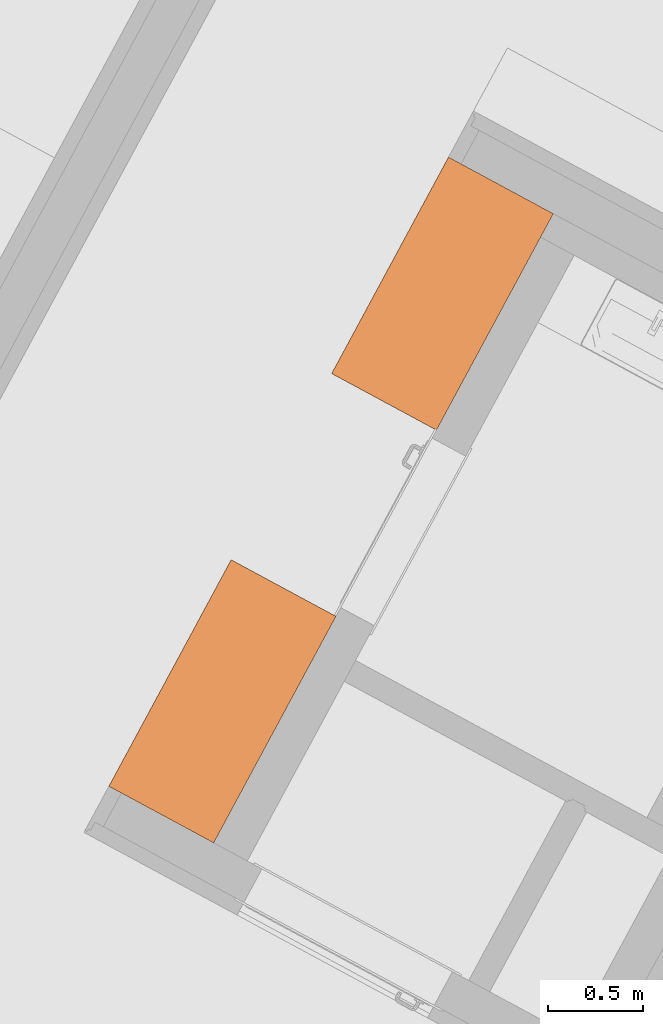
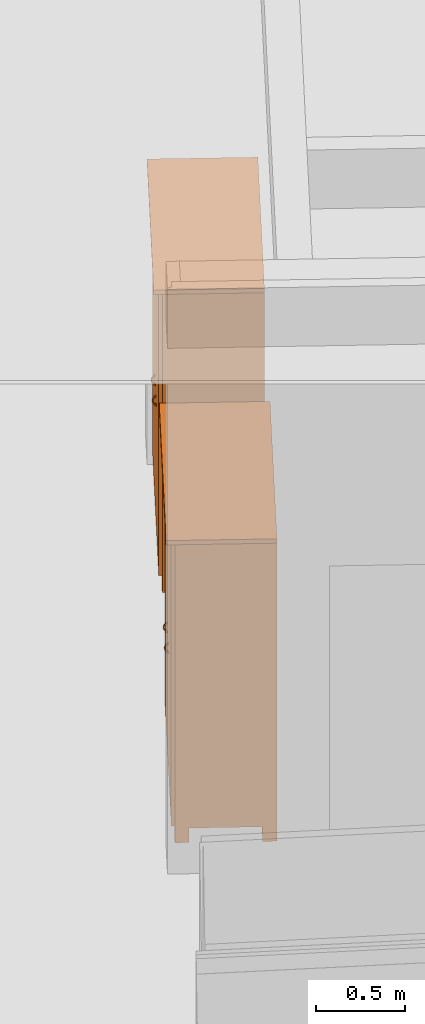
# One storey, part 45 of 52: 2 proxies.
"""IFC2X3 building model written with IfcOpenShell, lengths in metres."""

from ifc_helpers import new_model, entity, si_unit, converted_unit, derived_unit, money_unit, direction, frame, origin_with_axes, place, context, subcontext, project, spatial, faceted_brep, type_object, element, save


model = new_model("IFC2X3")

# Units and contexts
model_context = context("Model", 3, precision=1e-05, world=origin_with_axes(), true_north=direction((0.0, 1.0)))
body_context = subcontext(model_context, "Body", "Model", "MODEL_VIEW")
ifc_project = project(units=[si_unit("LENGTHUNIT", "METRE"), si_unit("AREAUNIT", "SQUARE_METRE"), si_unit("VOLUMEUNIT", "CUBIC_METRE"), converted_unit("PLANEANGLEUNIT", "DEGREE", entity("IfcPlaneAngleMeasure", 0.0174532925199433), si_unit("PLANEANGLEUNIT", "RADIAN"), dimensions=[0, 0, 0, 0, 0, 0, 0]), money_unit("EUR"), converted_unit("TIMEUNIT", "Year", entity("IfcTimeMeasure", 31556926.0), si_unit("TIMEUNIT", "SECOND"), dimensions=[0, 0, 1, 0, 0, 0, 0]), si_unit("MASSUNIT", "GRAM", prefix="KILO"), si_unit("THERMODYNAMICTEMPERATUREUNIT", "DEGREE_CELSIUS"), si_unit("LUMINOUSINTENSITYUNIT", "LUMEN"), si_unit("ENERGYUNIT", "JOULE", prefix="MEGA"), derived_unit("THERMALCONDUCTANCEUNIT", [(si_unit("POWERUNIT", "WATT"), 1), (si_unit("LENGTHUNIT", "METRE"), -1), (si_unit("THERMODYNAMICTEMPERATUREUNIT", "KELVIN"), -1)]), derived_unit("SPECIFICHEATCAPACITYUNIT", [(si_unit("ENERGYUNIT", "JOULE"), 1), (si_unit("MASSUNIT", "GRAM", prefix="KILO"), -1), (si_unit("THERMODYNAMICTEMPERATUREUNIT", "KELVIN"), -1)]), derived_unit("MASSDENSITYUNIT", [(si_unit("MASSUNIT", "GRAM", prefix="KILO"), 1), (si_unit("VOLUMEUNIT", "CUBIC_METRE"), -1)])], contexts=[model_context])

# Site, building, storey
site_placement = place(None, frame((-3.949935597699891, 1.740105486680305, 0.0), z_axis=(0.0, 0.0, 1.0), x_axis=(0.8799804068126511, -0.475009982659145, 0.0)))
site = spatial("IfcSite", under=ifc_project, at=site_placement, Name="Gelände", CompositionType="ELEMENT")
building_placement = place(site_placement, origin_with_axes())
building = spatial("IfcBuilding", under=site, at=building_placement, Name="Gebäude", CompositionType="ELEMENT")
storey_placement = place(building_placement, origin_with_axes())
storey = spatial("IfcBuildingStorey", under=building, at=storey_placement, Name="Erdgeschoss", CompositionType="ELEMENT", Elevation=0.0)

# Proxies
building_element_proxy_type = type_object("IfcBuildingElementProxyType", Name="Kleiderschrank 22", PredefinedType="NOTDEFINED")
proxy_1_placement = place(storey_placement, frame((15.16082818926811, 6.72805330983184, 0.0), z_axis=(0.0, 0.0, 1.0), x_axis=(0.0, -1.0, 0.0)))
element("IfcBuildingElementProxy", 1, at=proxy_1_placement, inside=storey, type_object=building_element_proxy_type, Name="Objekt-0067", context=body_context, shape_type="Brep", body=[
    faceted_brep([(0.05000000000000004, 0.6246501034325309, 0.12), (0.05000000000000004, 0.6046501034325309, 0.12), (0.05000000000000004, 0.6046501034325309, 2.05), (0.05000000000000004, 0.6246501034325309, 2.05), (1.24, 0.6246501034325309, 0.12), (1.24, 0.6046501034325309, 0.12), (1.24, 0.6046501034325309, 2.05), (1.24, 0.6246501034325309, 2.05)], [[[0, 1, 2, 3]], [[0, 4, 5, 1]], [[1, 5, 6, 2]], [[3, 2, 6, 7]], [[4, 0, 3, 7]], [[5, 4, 7, 6]]]),
    faceted_brep([(1.26, 0.05000000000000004, 0.1), (1.24, 0.05000000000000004, 0.1), (1.24, 0.6246501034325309, 0.1), (1.26, 0.6246501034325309, 0.1), (1.26, 0.05000000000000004, 2.07), (1.24, 0.05000000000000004, 2.07), (1.24, 0.6246501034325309, 2.07), (1.26, 0.6246501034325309, 2.07)], [[[0, 1, 2, 3]], [[1, 0, 4, 5]], [[2, 1, 5, 6]], [[3, 2, 6, 7]], [[0, 3, 7, 4]], [[5, 4, 7, 6]]]),
    faceted_brep([(0.05000000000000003, 0.05000000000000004, 0.1), (0.03000000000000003, 0.05000000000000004, 0.1), (0.03000000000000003, 0.6246501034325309, 0.1), (0.05000000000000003, 0.6246501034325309, 0.1), (0.05000000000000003, 0.05000000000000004, 2.07), (0.03000000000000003, 0.05000000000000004, 2.07), (0.03000000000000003, 0.6246501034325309, 2.07), (0.05000000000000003, 0.6246501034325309, 2.07)], [[[0, 1, 2, 3]], [[1, 0, 4, 5]], [[2, 1, 5, 6]], [[3, 2, 6, 7]], [[0, 3, 7, 4]], [[5, 4, 7, 6]]]),
    faceted_brep([(1.24, 0.05000000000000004, 0.1), (0.05000000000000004, 0.05000000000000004, 0.1), (0.05000000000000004, 0.6246501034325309, 0.1), (1.24, 0.6246501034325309, 0.1), (1.24, 0.05000000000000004, 0.12), (0.05000000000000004, 0.05000000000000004, 0.12), (0.05000000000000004, 0.6246501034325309, 0.12), (1.24, 0.6246501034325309, 0.12)], [[[0, 1, 2, 3]], [[1, 0, 4, 5]], [[2, 1, 5, 6]], [[3, 2, 6, 7]], [[0, 3, 7, 4]], [[5, 4, 7, 6]]]),
    faceted_brep([(1.24, 0.05000000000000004, 2.05), (0.05000000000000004, 0.05000000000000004, 2.05), (0.05000000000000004, 0.6246501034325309, 2.05), (1.24, 0.6246501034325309, 2.05), (1.24, 0.05000000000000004, 2.07), (0.05000000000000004, 0.05000000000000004, 2.07), (0.05000000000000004, 0.6246501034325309, 2.07), (1.24, 0.6246501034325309, 2.07)], [[[0, 1, 2, 3]], [[1, 0, 4, 5]], [[2, 1, 5, 6]], [[3, 2, 6, 7]], [[0, 3, 7, 4]], [[5, 4, 7, 6]]]),
    faceted_brep([(1.29, 0.6246501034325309, 2.07), (1.29, 0.6246501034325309, 2.1), (1.29, 0.0, 2.1), (1.29, 0.0, 2.07), (0.0, 0.6246501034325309, 2.07), (0.0, 0.6246501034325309, 2.1), (0.0, 0.0, 2.1), (0.0, 0.0, 2.07)], [[[0, 1, 2, 3]], [[4, 5, 1, 0]], [[1, 5, 6, 2]], [[3, 2, 6, 7]], [[0, 3, 7, 4]], [[7, 6, 5, 4]]]),
    faceted_brep([(0.1100000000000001, 0.5446501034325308, 0.0), (0.1100000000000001, 0.6246501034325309, 0.0), (0.1100000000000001, 0.6246501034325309, 0.1), (0.1100000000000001, 0.5446501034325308, 0.1), (0.03000000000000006, 0.5446501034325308, 0.0), (0.03000000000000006, 0.6246501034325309, 0.0), (0.03000000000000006, 0.6246501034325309, 0.1), (0.03000000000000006, 0.5446501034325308, 0.1)], [[[0, 1, 2, 3]], [[0, 4, 5, 1]], [[1, 5, 6, 2]], [[3, 2, 6, 7]], [[4, 0, 3, 7]], [[5, 4, 7, 6]]]),
    faceted_brep([(1.26, 0.5446501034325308, 0.0), (1.26, 0.6246501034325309, 0.0), (1.26, 0.6246501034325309, 0.1), (1.26, 0.5446501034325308, 0.1), (1.18, 0.5446501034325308, 0.0), (1.18, 0.6246501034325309, 0.0), (1.18, 0.6246501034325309, 0.1), (1.18, 0.5446501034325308, 0.1)], [[[0, 1, 2, 3]], [[0, 4, 5, 1]], [[1, 5, 6, 2]], [[3, 2, 6, 7]], [[4, 0, 3, 7]], [[5, 4, 7, 6]]]),
    faceted_brep([(0.1100000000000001, 0.05000000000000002, 0.0), (0.1100000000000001, 0.13, 0.0), (0.1100000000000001, 0.13, 0.1), (0.1100000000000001, 0.05000000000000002, 0.1), (0.03000000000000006, 0.05000000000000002, 0.0), (0.03000000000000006, 0.13, 0.0), (0.03000000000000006, 0.13, 0.1), (0.03000000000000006, 0.05000000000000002, 0.1)], [[[0, 1, 2, 3]], [[0, 4, 5, 1]], [[1, 5, 6, 2]], [[3, 2, 6, 7]], [[4, 0, 3, 7]], [[5, 4, 7, 6]]]),
    faceted_brep([(1.26, 0.05000000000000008, 0.0), (1.26, 0.1300000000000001, 0.0), (1.26, 0.1300000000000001, 0.1), (1.26, 0.05000000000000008, 0.1), (1.18, 0.05000000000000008, 0.0), (1.18, 0.1300000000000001, 0.0), (1.18, 0.1300000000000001, 0.1), (1.18, 0.05000000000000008, 0.1)], [[[0, 1, 2, 3]], [[0, 4, 5, 1]], [[1, 5, 6, 2]], [[3, 2, 6, 7]], [[4, 0, 3, 7]], [[5, 4, 7, 6]]]),
    faceted_brep([(0.04049999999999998, 0.05, 0.1104999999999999), (0.6445, 0.05, 0.1104999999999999), (0.6445, 0.03, 0.1104999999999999), (0.04049999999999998, 0.03, 0.1104999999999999), (0.04049999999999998, 0.05000000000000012, 2.0595), (0.6445, 0.05000000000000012, 2.0595), (0.6445, 0.03000000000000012, 2.0595), (0.04049999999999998, 0.03000000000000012, 2.0595)], [[[0, 1, 2, 3]], [[0, 4, 5, 1]], [[1, 5, 6, 2]], [[3, 2, 6, 7]], [[4, 0, 3, 7]], [[5, 4, 7, 6]]]),
    faceted_brep([(0.5819262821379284, 0.03, 0.955), (0.5819262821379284, 0.03, 0.965), (0.5939984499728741, 0.03, 0.965), (0.5939984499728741, 0.03, 0.955), (0.5708251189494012, 0.01914952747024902, 0.965), (0.5708251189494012, 0.01914952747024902, 0.955), (0.5171748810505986, 0.01914952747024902, 0.965), (0.5060737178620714, 0.03, 0.965), (0.4940015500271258, 0.03, 0.965), (0.5089716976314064, 0.01692943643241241, 0.965), (0.5259650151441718, 0.008772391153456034, 0.965), (0.5439999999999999, 0.006000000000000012, 0.965), (0.562034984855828, 0.008772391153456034, 0.965), (0.5790283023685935, 0.01692943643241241, 0.965), (0.5578878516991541, 0.01232720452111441, 0.965), (0.5439999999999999, 0.009999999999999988, 0.965), (0.5301121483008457, 0.01232720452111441, 0.965), (0.5790283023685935, 0.01692943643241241, 0.955), (0.562034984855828, 0.008772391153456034, 0.955), (0.5439999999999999, 0.006000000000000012, 0.955), (0.5259650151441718, 0.008772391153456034, 0.955), (0.5089716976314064, 0.01692943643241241, 0.955), (0.4940015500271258, 0.03, 0.955), (0.5060737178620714, 0.03, 0.955), (0.5171748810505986, 0.01914952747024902, 0.955), (0.5301121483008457, 0.01232720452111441, 0.955), (0.5439999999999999, 0.009999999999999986, 0.955), (0.5578878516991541, 0.01232720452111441, 0.955)], [[[0, 1, 2, 3]], [[4, 1, 0, 5]], [[6, 7, 8, 9, 10, 11, 12, 13, 2, 1, 4, 14, 15, 16]], [[13, 17, 3, 2]], [[5, 0, 3, 17, 18, 19, 20, 21, 22, 23, 24, 25, 26, 27]], [[14, 4, 5, 27]], [[7, 6, 24, 23]], [[7, 23, 22, 8]], [[8, 22, 21, 9]], [[9, 21, 20, 10]], [[10, 20, 19, 11]], [[11, 19, 18, 12]], [[12, 18, 17, 13]], [[15, 14, 27, 26]], [[16, 15, 26, 25]], [[6, 16, 25, 24]]]),
    faceted_brep([(0.6465000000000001, 0.05, 0.1104999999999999), (1.2505, 0.05, 0.1104999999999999), (1.2505, 0.03, 0.1104999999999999), (0.6465000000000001, 0.03, 0.1104999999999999), (0.6465000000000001, 0.05000000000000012, 2.0595), (1.2505, 0.05000000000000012, 2.0595), (1.2505, 0.03000000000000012, 2.0595), (0.6465000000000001, 0.03000000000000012, 2.0595)], [[[0, 1, 2, 3]], [[0, 4, 5, 1]], [[1, 5, 6, 2]], [[3, 2, 6, 7]], [[4, 0, 3, 7]], [[5, 4, 7, 6]]]),
    faceted_brep([(0.7839262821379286, 0.03, 0.955), (0.7839262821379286, 0.03, 0.965), (0.7959984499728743, 0.03, 0.965), (0.7959984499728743, 0.03, 0.955), (0.7728251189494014, 0.01914952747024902, 0.965), (0.7728251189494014, 0.01914952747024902, 0.955), (0.7191748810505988, 0.01914952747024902, 0.965), (0.7080737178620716, 0.03, 0.965), (0.6960015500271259, 0.03, 0.965), (0.7109716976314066, 0.01692943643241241, 0.965), (0.727965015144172, 0.008772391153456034, 0.965), (0.7460000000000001, 0.006000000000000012, 0.965), (0.7640349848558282, 0.008772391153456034, 0.965), (0.7810283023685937, 0.01692943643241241, 0.965), (0.7598878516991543, 0.01232720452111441, 0.965), (0.7460000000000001, 0.009999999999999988, 0.965), (0.7321121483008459, 0.01232720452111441, 0.965), (0.7810283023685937, 0.01692943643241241, 0.955), (0.7640349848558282, 0.008772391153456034, 0.955), (0.7460000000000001, 0.006000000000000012, 0.955), (0.727965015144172, 0.008772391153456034, 0.955), (0.7109716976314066, 0.01692943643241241, 0.955), (0.6960015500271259, 0.03, 0.955), (0.7080737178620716, 0.03, 0.955), (0.7191748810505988, 0.01914952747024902, 0.955), (0.7321121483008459, 0.01232720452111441, 0.955), (0.7460000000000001, 0.009999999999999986, 0.955), (0.7598878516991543, 0.01232720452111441, 0.955)], [[[0, 1, 2, 3]], [[4, 1, 0, 5]], [[6, 7, 8, 9, 10, 11, 12, 13, 2, 1, 4, 14, 15, 16]], [[17, 3, 2, 13]], [[5, 0, 3, 17, 18, 19, 20, 21, 22, 23, 24, 25, 26, 27]], [[14, 4, 5, 27]], [[7, 6, 24, 23]], [[7, 23, 22, 8]], [[22, 21, 9, 8]], [[21, 20, 10, 9]], [[20, 19, 11, 10]], [[19, 18, 12, 11]], [[18, 17, 13, 12]], [[15, 14, 27, 26]], [[16, 15, 26, 25]], [[6, 16, 25, 24]]]),
])
proxy_2_placement = place(storey_placement, frame((15.16082818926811, 4.328482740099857, 0.0), z_axis=(0.0, 0.0, 1.0), x_axis=(0.0, -1.0, 0.0)))
element("IfcBuildingElementProxy", 2, at=proxy_2_placement, inside=storey, type_object=building_element_proxy_type, Name="Objekt-0067", context=body_context, shape_type="Brep", body=[
    faceted_brep([(0.05000000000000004, 0.6246501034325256, 0.12), (0.05000000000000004, 0.6046501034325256, 0.12), (0.05000000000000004, 0.6046501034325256, 2.05), (0.05000000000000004, 0.6246501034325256, 2.05), (1.3, 0.6246501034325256, 0.12), (1.3, 0.6046501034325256, 0.12), (1.3, 0.6046501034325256, 2.05), (1.3, 0.6246501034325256, 2.05)], [[[0, 1, 2, 3]], [[0, 4, 5, 1]], [[1, 5, 6, 2]], [[3, 2, 6, 7]], [[4, 0, 3, 7]], [[5, 4, 7, 6]]]),
    faceted_brep([(1.32, 0.05000000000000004, 0.1), (1.3, 0.05000000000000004, 0.1), (1.3, 0.6246501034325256, 0.1), (1.32, 0.6246501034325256, 0.1), (1.32, 0.05000000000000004, 2.07), (1.3, 0.05000000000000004, 2.07), (1.3, 0.6246501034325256, 2.07), (1.32, 0.6246501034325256, 2.07)], [[[0, 1, 2, 3]], [[1, 0, 4, 5]], [[2, 1, 5, 6]], [[3, 2, 6, 7]], [[0, 3, 7, 4]], [[5, 4, 7, 6]]]),
    faceted_brep([(0.05000000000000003, 0.05000000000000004, 0.1), (0.03000000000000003, 0.05000000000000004, 0.1), (0.03000000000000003, 0.6246501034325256, 0.1), (0.05000000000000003, 0.6246501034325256, 0.1), (0.05000000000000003, 0.05000000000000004, 2.07), (0.03000000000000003, 0.05000000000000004, 2.07), (0.03000000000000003, 0.6246501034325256, 2.07), (0.05000000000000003, 0.6246501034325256, 2.07)], [[[0, 1, 2, 3]], [[1, 0, 4, 5]], [[2, 1, 5, 6]], [[3, 2, 6, 7]], [[0, 3, 7, 4]], [[5, 4, 7, 6]]]),
    faceted_brep([(1.3, 0.05000000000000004, 0.1), (0.05000000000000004, 0.05000000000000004, 0.1), (0.05000000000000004, 0.6246501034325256, 0.1), (1.3, 0.6246501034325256, 0.1), (1.3, 0.05000000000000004, 0.12), (0.05000000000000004, 0.05000000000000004, 0.12), (0.05000000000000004, 0.6246501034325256, 0.12), (1.3, 0.6246501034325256, 0.12)], [[[0, 1, 2, 3]], [[1, 0, 4, 5]], [[2, 1, 5, 6]], [[3, 2, 6, 7]], [[0, 3, 7, 4]], [[5, 4, 7, 6]]]),
    faceted_brep([(1.3, 0.05000000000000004, 2.05), (0.05000000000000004, 0.05000000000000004, 2.05), (0.05000000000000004, 0.6246501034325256, 2.05), (1.3, 0.6246501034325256, 2.05), (1.3, 0.05000000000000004, 2.07), (0.05000000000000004, 0.05000000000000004, 2.07), (0.05000000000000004, 0.6246501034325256, 2.07), (1.3, 0.6246501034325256, 2.07)], [[[0, 1, 2, 3]], [[1, 0, 4, 5]], [[2, 1, 5, 6]], [[3, 2, 6, 7]], [[0, 3, 7, 4]], [[5, 4, 7, 6]]]),
    faceted_brep([(1.35, 0.6246501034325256, 2.07), (1.35, 0.6246501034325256, 2.1), (1.35, 0.0, 2.1), (1.35, 0.0, 2.07), (0.0, 0.6246501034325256, 2.07), (0.0, 0.6246501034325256, 2.1), (0.0, 0.0, 2.1), (0.0, 0.0, 2.07)], [[[0, 1, 2, 3]], [[4, 5, 1, 0]], [[1, 5, 6, 2]], [[3, 2, 6, 7]], [[0, 3, 7, 4]], [[7, 6, 5, 4]]]),
    faceted_brep([(0.1100000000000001, 0.5446501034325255, 0.0), (0.1100000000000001, 0.6246501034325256, 0.0), (0.1100000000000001, 0.6246501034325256, 0.1), (0.1100000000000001, 0.5446501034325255, 0.1), (0.03000000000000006, 0.5446501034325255, 0.0), (0.03000000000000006, 0.6246501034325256, 0.0), (0.03000000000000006, 0.6246501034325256, 0.1), (0.03000000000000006, 0.5446501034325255, 0.1)], [[[0, 1, 2, 3]], [[0, 4, 5, 1]], [[1, 5, 6, 2]], [[3, 2, 6, 7]], [[4, 0, 3, 7]], [[5, 4, 7, 6]]]),
    faceted_brep([(1.32, 0.5446501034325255, 0.0), (1.32, 0.6246501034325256, 0.0), (1.32, 0.6246501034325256, 0.1), (1.32, 0.5446501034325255, 0.1), (1.24, 0.5446501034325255, 0.0), (1.24, 0.6246501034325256, 0.0), (1.24, 0.6246501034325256, 0.1), (1.24, 0.5446501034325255, 0.1)], [[[0, 1, 2, 3]], [[0, 4, 5, 1]], [[1, 5, 6, 2]], [[3, 2, 6, 7]], [[4, 0, 3, 7]], [[5, 4, 7, 6]]]),
    faceted_brep([(0.1100000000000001, 0.05000000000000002, 0.0), (0.1100000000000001, 0.13, 0.0), (0.1100000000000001, 0.13, 0.1), (0.1100000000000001, 0.05000000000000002, 0.1), (0.03000000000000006, 0.05000000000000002, 0.0), (0.03000000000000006, 0.13, 0.0), (0.03000000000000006, 0.13, 0.1), (0.03000000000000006, 0.05000000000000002, 0.1)], [[[0, 1, 2, 3]], [[0, 4, 5, 1]], [[1, 5, 6, 2]], [[3, 2, 6, 7]], [[4, 0, 3, 7]], [[5, 4, 7, 6]]]),
    faceted_brep([(1.32, 0.05000000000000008, 0.0), (1.32, 0.1300000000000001, 0.0), (1.32, 0.1300000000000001, 0.1), (1.32, 0.05000000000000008, 0.1), (1.24, 0.05000000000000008, 0.0), (1.24, 0.1300000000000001, 0.0), (1.24, 0.1300000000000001, 0.1), (1.24, 0.05000000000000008, 0.1)], [[[0, 1, 2, 3]], [[0, 4, 5, 1]], [[1, 5, 6, 2]], [[3, 2, 6, 7]], [[4, 0, 3, 7]], [[5, 4, 7, 6]]]),
    faceted_brep([(0.04049999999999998, 0.05, 0.1104999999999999), (0.6744999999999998, 0.05, 0.1104999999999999), (0.6744999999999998, 0.03, 0.1104999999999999), (0.04049999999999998, 0.03, 0.1104999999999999), (0.04049999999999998, 0.05000000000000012, 2.0595), (0.6744999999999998, 0.05000000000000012, 2.0595), (0.6744999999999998, 0.03000000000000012, 2.0595), (0.04049999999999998, 0.03000000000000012, 2.0595)], [[[0, 1, 2, 3]], [[0, 4, 5, 1]], [[1, 5, 6, 2]], [[3, 2, 6, 7]], [[4, 0, 3, 7]], [[5, 4, 7, 6]]]),
    faceted_brep([(0.6119262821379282, 0.03, 0.955), (0.6119262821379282, 0.03, 0.965), (0.6239984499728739, 0.03, 0.965), (0.6239984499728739, 0.03, 0.955), (0.600825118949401, 0.01914952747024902, 0.965), (0.600825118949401, 0.01914952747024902, 0.955), (0.5471748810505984, 0.01914952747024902, 0.965), (0.5360737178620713, 0.03, 0.965), (0.5240015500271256, 0.03, 0.965), (0.5389716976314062, 0.01692943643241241, 0.965), (0.5559650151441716, 0.008772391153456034, 0.965), (0.5739999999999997, 0.006000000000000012, 0.965), (0.5920349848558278, 0.008772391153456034, 0.965), (0.6090283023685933, 0.01692943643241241, 0.965), (0.5878878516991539, 0.01232720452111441, 0.965), (0.5739999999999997, 0.009999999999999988, 0.965), (0.5601121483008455, 0.01232720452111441, 0.965), (0.6090283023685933, 0.01692943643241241, 0.955), (0.5920349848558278, 0.008772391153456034, 0.955), (0.5739999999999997, 0.006000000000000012, 0.955), (0.5559650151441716, 0.008772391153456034, 0.955), (0.5389716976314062, 0.01692943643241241, 0.955), (0.5240015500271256, 0.03, 0.955), (0.5360737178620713, 0.03, 0.955), (0.5471748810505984, 0.01914952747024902, 0.955), (0.5601121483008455, 0.01232720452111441, 0.955), (0.5739999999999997, 0.009999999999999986, 0.955), (0.5878878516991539, 0.01232720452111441, 0.955)], [[[0, 1, 2, 3]], [[4, 1, 0, 5]], [[6, 7, 8, 9, 10, 11, 12, 13, 2, 1, 4, 14, 15, 16]], [[13, 17, 3, 2]], [[5, 0, 3, 17, 18, 19, 20, 21, 22, 23, 24, 25, 26, 27]], [[14, 4, 5, 27]], [[7, 6, 24, 23]], [[7, 23, 22, 8]], [[8, 22, 21, 9]], [[9, 21, 20, 10]], [[10, 20, 19, 11]], [[11, 19, 18, 12]], [[12, 18, 17, 13]], [[15, 14, 27, 26]], [[16, 15, 26, 25]], [[6, 16, 25, 24]]]),
    faceted_brep([(0.6764999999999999, 0.05, 0.1104999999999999), (1.3105, 0.05, 0.1104999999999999), (1.3105, 0.03, 0.1104999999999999), (0.6764999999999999, 0.03, 0.1104999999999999), (0.6764999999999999, 0.05000000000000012, 2.0595), (1.3105, 0.05000000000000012, 2.0595), (1.3105, 0.03000000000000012, 2.0595), (0.6764999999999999, 0.03000000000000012, 2.0595)], [[[0, 1, 2, 3]], [[0, 4, 5, 1]], [[1, 5, 6, 2]], [[3, 2, 6, 7]], [[4, 0, 3, 7]], [[5, 4, 7, 6]]]),
    faceted_brep([(0.8139262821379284, 0.03, 0.955), (0.8139262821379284, 0.03, 0.965), (0.8259984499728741, 0.03, 0.965), (0.8259984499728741, 0.03, 0.955), (0.8028251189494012, 0.01914952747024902, 0.965), (0.8028251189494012, 0.01914952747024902, 0.955), (0.7491748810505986, 0.01914952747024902, 0.965), (0.7380737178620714, 0.03, 0.965), (0.7260015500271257, 0.03, 0.965), (0.7409716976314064, 0.01692943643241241, 0.965), (0.7579650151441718, 0.008772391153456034, 0.965), (0.7759999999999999, 0.006000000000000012, 0.965), (0.794034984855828, 0.008772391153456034, 0.965), (0.8110283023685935, 0.01692943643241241, 0.965), (0.7898878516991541, 0.01232720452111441, 0.965), (0.7759999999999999, 0.009999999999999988, 0.965), (0.7621121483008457, 0.01232720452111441, 0.965), (0.8110283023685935, 0.01692943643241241, 0.955), (0.794034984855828, 0.008772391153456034, 0.955), (0.7759999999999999, 0.006000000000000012, 0.955), (0.7579650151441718, 0.008772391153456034, 0.955), (0.7409716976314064, 0.01692943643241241, 0.955), (0.7260015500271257, 0.03, 0.955), (0.7380737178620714, 0.03, 0.955), (0.7491748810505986, 0.01914952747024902, 0.955), (0.7621121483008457, 0.01232720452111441, 0.955), (0.7759999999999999, 0.009999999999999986, 0.955), (0.7898878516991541, 0.01232720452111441, 0.955)], [[[0, 1, 2, 3]], [[4, 1, 0, 5]], [[6, 7, 8, 9, 10, 11, 12, 13, 2, 1, 4, 14, 15, 16]], [[17, 3, 2, 13]], [[5, 0, 3, 17, 18, 19, 20, 21, 22, 23, 24, 25, 26, 27]], [[14, 4, 5, 27]], [[7, 6, 24, 23]], [[7, 23, 22, 8]], [[22, 21, 9, 8]], [[21, 20, 10, 9]], [[20, 19, 11, 10]], [[19, 18, 12, 11]], [[18, 17, 13, 12]], [[15, 14, 27, 26]], [[16, 15, 26, 25]], [[6, 16, 25, 24]]]),
])

save(model, "model.ifc")
